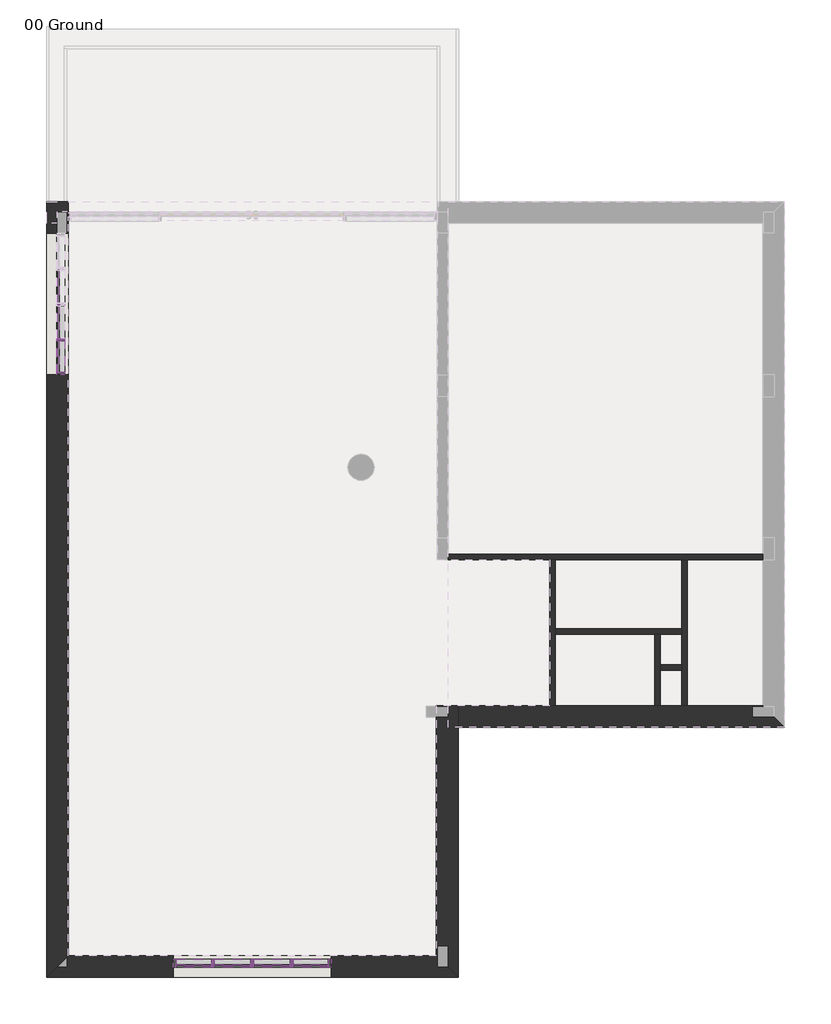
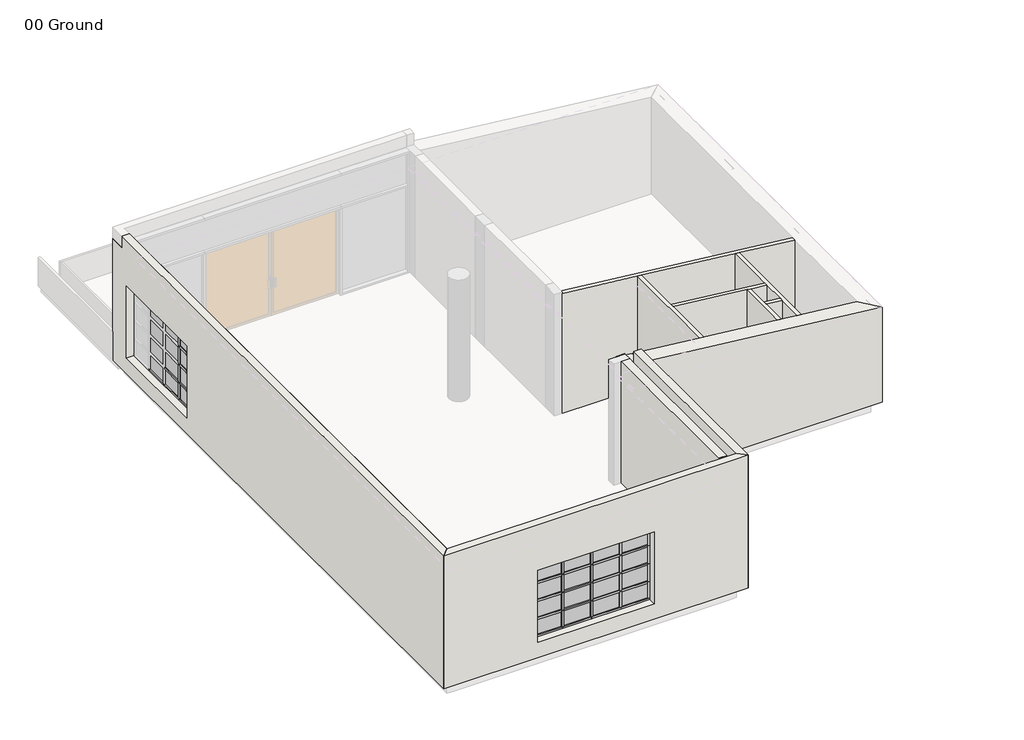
# One storey, part 1 of 2: 57 members, 28 plates, 10 walls.
"""IFC4 building model written with IfcOpenShell, lengths in millimetres."""

from ifc_helpers import new_model, si_unit, frame, origin, place, context, project, spatial, polyline, outline, extrude, faceted_brep, transform, mapped, element, save
from components import rectangular_mullion_50_x_150mm_5618a3b2, rectangular_mullion_50_x_150mm_9d7ed0e7, rectangular_mullion_50_x_150mm_3942d5f1, rectangular_mullion_50_x_150mm_75048c14, rectangular_mullion_50_x_150mm_fef40266, rectangular_mullion_50_x_150mm_4130c5bf, rectangular_mullion_50_x_150mm_a9044063, rectangular_mullion_50_x_150mm_1348d4e1, rectangular_mullion_50_x_150mm_89c22e8d, rectangular_mullion_50_x_150mm_42d59fea, rectangular_mullion_50_x_150mm_129a33a7, rectangular_mullion_50_x_150mm_05a43cda, system_panel_glazed_5c27190a, system_panel_glazed_fdc58650, system_panel_glazed_d9146cf5, system_panel_glazed_aea024ea, system_panel_glazed_24712de8, system_panel_glazed_68d5ac44, system_panel_glazed_f545c6ae, system_panel_glazed_1a6db426

model = new_model("IFC4")

# Units and contexts
model_context = context("Model", 3, world=origin())
ifc_project = project(units=[si_unit("LENGTHUNIT", "METRE", prefix="MILLI")], contexts=[model_context])

# Site, building, storey
site = spatial("IfcSite", under=ifc_project)
building = spatial("IfcBuilding", under=site)
storey = spatial("IfcBuildingStorey", under=building, Name="00 Ground", Elevation=0.0)

# Members
placement = place(None, origin())
rectangular_mullion_50_x_150mm_shape = rectangular_mullion_50_x_150mm_5618a3b2(model_context)
element("IfcMember", 1, ObjectType="Rectangular Mullion : 50 x 150mm", at=placement, inside=storey, context=model_context, shape_type="MappedRepresentation", body=[
    mapped(rectangular_mullion_50_x_150mm_shape, transform((-8247.5407999, 3987.2898354, 2300.0), x_axis=(0.0, 0.0, 1.0), y_axis=(1.0, 0.0, 0.0), z_axis=(0.0, 1.0, 0.0))),
])
rectangular_mullion_50_x_150mm_2_shape = rectangular_mullion_50_x_150mm_9d7ed0e7(model_context)
element("IfcMember", 2, ObjectType="Rectangular Mullion : 50 x 150mm", at=placement, inside=storey, context=model_context, shape_type="MappedRepresentation", body=[
    mapped(rectangular_mullion_50_x_150mm_2_shape, transform((-8247.5407999, 4637.2898352, 2300.0), x_axis=(0.0, 0.0, 1.0), y_axis=(1.0, 0.0, 0.0), z_axis=(0.0, 1.0, 0.0))),
])
element("IfcMember", 3, ObjectType="Rectangular Mullion : 50 x 150mm", at=placement, inside=storey, context=model_context, shape_type="MappedRepresentation", body=[
    mapped(rectangular_mullion_50_x_150mm_shape, transform((-8247.5407999, 3337.2898352, 400.0), x_axis=(0.0, 0.0, -1.0), y_axis=(1.0, 0.0, 0.0), z_axis=(0.0, -1.0, 0.0))),
])
element("IfcMember", 4, ObjectType="Rectangular Mullion : 50 x 150mm", at=placement, inside=storey, context=model_context, shape_type="MappedRepresentation", body=[
    mapped(rectangular_mullion_50_x_150mm_2_shape, transform((-8247.5407999, 3987.2898354, 400.0), x_axis=(0.0, 0.0, -1.0), y_axis=(1.0, 0.0, 0.0), z_axis=(0.0, -1.0, 0.0))),
])
element("IfcMember", 5, ObjectType="Rectangular Mullion : 50 x 150mm", at=placement, inside=storey, context=model_context, shape_type="MappedRepresentation", body=[
    mapped(rectangular_mullion_50_x_150mm_2_shape, transform((-8247.5407999, 4637.2898352, 400.0), x_axis=(0.0, 0.0, -1.0), y_axis=(1.0, 0.0, 0.0), z_axis=(0.0, -1.0, 0.0))),
])
rectangular_mullion_50_x_150mm_3_shape = rectangular_mullion_50_x_150mm_3942d5f1(model_context)
element("IfcMember", 6, ObjectType="Rectangular Mullion : 50 x 150mm", at=placement, inside=storey, context=model_context, shape_type="MappedRepresentation", body=[
    mapped(rectangular_mullion_50_x_150mm_3_shape, transform((-8247.5407999, 3962.2898354, 875.0), x_axis=(0.0, 0.0, 1.0), y_axis=(1.0, 0.0, 0.0), z_axis=(0.0, 1.0, 0.0))),
])
element("IfcMember", 7, ObjectType="Rectangular Mullion : 50 x 150mm", at=placement, inside=storey, context=model_context, shape_type="MappedRepresentation", body=[
    mapped(rectangular_mullion_50_x_150mm_3_shape, transform((-8247.5407999, 3962.2898354, 1350.0), x_axis=(0.0, 0.0, 1.0), y_axis=(1.0, 0.0, 0.0), z_axis=(0.0, 1.0, 0.0))),
])
element("IfcMember", 8, ObjectType="Rectangular Mullion : 50 x 150mm", at=placement, inside=storey, context=model_context, shape_type="MappedRepresentation", body=[
    mapped(rectangular_mullion_50_x_150mm_3_shape, transform((-8247.5407999, 3962.2898354, 1825.0), x_axis=(0.0, 0.0, 1.0), y_axis=(1.0, 0.0, 0.0), z_axis=(0.0, 1.0, 0.0))),
])
rectangular_mullion_50_x_150mm_4_shape = rectangular_mullion_50_x_150mm_75048c14(model_context)
element("IfcMember", 9, ObjectType="Rectangular Mullion : 50 x 150mm", at=placement, inside=storey, context=model_context, shape_type="MappedRepresentation", body=[
    mapped(rectangular_mullion_50_x_150mm_4_shape, transform((-8247.5407999, 4612.2898352, 875.0), x_axis=(0.0, 0.0, 1.0), y_axis=(1.0, 0.0, 0.0), z_axis=(0.0, 1.0, 0.0))),
])
rectangular_mullion_50_x_150mm_5_shape = rectangular_mullion_50_x_150mm_fef40266(model_context)
element("IfcMember", 10, ObjectType="Rectangular Mullion : 50 x 150mm", at=placement, inside=storey, context=model_context, shape_type="MappedRepresentation", body=[
    mapped(rectangular_mullion_50_x_150mm_5_shape, transform((-3272.5407999, -7487.7101648, 2300.0), x_axis=(0.0, 0.0, 1.0), y_axis=(0.0, -1.0, 0.0), z_axis=(1.0, 0.0, 0.0))),
])
element("IfcMember", 11, ObjectType="Rectangular Mullion : 50 x 150mm", at=placement, inside=storey, context=model_context, shape_type="MappedRepresentation", body=[
    mapped(rectangular_mullion_50_x_150mm_5_shape, transform((-5447.5407998, -7487.7101648, 2300.0), x_axis=(0.0, 0.0, 1.0), y_axis=(0.0, -1.0, 0.0), z_axis=(1.0, 0.0, 0.0))),
])
rectangular_mullion_50_x_150mm_6_shape = rectangular_mullion_50_x_150mm_4130c5bf(model_context)
element("IfcMember", 12, ObjectType="Rectangular Mullion : 50 x 150mm", at=placement, inside=storey, context=model_context, shape_type="MappedRepresentation", body=[
    mapped(rectangular_mullion_50_x_150mm_6_shape, transform((-4722.5407999, -7487.7101648, 2300.0), x_axis=(0.0, 0.0, 1.0), y_axis=(0.0, -1.0, 0.0), z_axis=(1.0, 0.0, 0.0))),
])
element("IfcMember", 13, ObjectType="Rectangular Mullion : 50 x 150mm", at=placement, inside=storey, context=model_context, shape_type="MappedRepresentation", body=[
    mapped(rectangular_mullion_50_x_150mm_6_shape, transform((-3997.5408001, -7487.7101648, 2300.0), x_axis=(0.0, 0.0, 1.0), y_axis=(0.0, -1.0, 0.0), z_axis=(1.0, 0.0, 0.0))),
])
element("IfcMember", 14, ObjectType="Rectangular Mullion : 50 x 150mm", at=placement, inside=storey, context=model_context, shape_type="MappedRepresentation", body=[
    mapped(rectangular_mullion_50_x_150mm_5_shape, transform((-6172.5407999, -7487.7101648, 400.0), x_axis=(0.0, 0.0, -1.0), y_axis=(0.0, -1.0, 0.0), z_axis=(-1.0, 0.0, 0.0))),
])
element("IfcMember", 15, ObjectType="Rectangular Mullion : 50 x 150mm", at=placement, inside=storey, context=model_context, shape_type="MappedRepresentation", body=[
    mapped(rectangular_mullion_50_x_150mm_6_shape, transform((-5447.5407998, -7487.7101648, 400.0), x_axis=(0.0, 0.0, -1.0), y_axis=(0.0, -1.0, 0.0), z_axis=(-1.0, 0.0, 0.0))),
])
element("IfcMember", 16, ObjectType="Rectangular Mullion : 50 x 150mm", at=placement, inside=storey, context=model_context, shape_type="MappedRepresentation", body=[
    mapped(rectangular_mullion_50_x_150mm_6_shape, transform((-4722.5407999, -7487.7101648, 400.0), x_axis=(0.0, 0.0, -1.0), y_axis=(0.0, -1.0, 0.0), z_axis=(-1.0, 0.0, 0.0))),
])
element("IfcMember", 17, ObjectType="Rectangular Mullion : 50 x 150mm", at=placement, inside=storey, context=model_context, shape_type="MappedRepresentation", body=[
    mapped(rectangular_mullion_50_x_150mm_5_shape, transform((-3997.5408001, -7487.7101648, 400.0), x_axis=(0.0, 0.0, -1.0), y_axis=(0.0, -1.0, 0.0), z_axis=(-1.0, 0.0, 0.0))),
])
rectangular_mullion_50_x_150mm_7_shape = rectangular_mullion_50_x_150mm_a9044063(model_context)
element("IfcMember", 18, ObjectType="Rectangular Mullion : 50 x 150mm", at=placement, inside=storey, context=model_context, shape_type="MappedRepresentation", body=[
    mapped(rectangular_mullion_50_x_150mm_7_shape, transform((-3322.5407999, -7487.7101648, 875.0), x_axis=(0.0, 0.0, 1.0), y_axis=(0.0, -1.0, 0.0), z_axis=(1.0, 0.0, 0.0))),
])
element("IfcMember", 19, ObjectType="Rectangular Mullion : 50 x 150mm", at=placement, inside=storey, context=model_context, shape_type="MappedRepresentation", body=[
    mapped(rectangular_mullion_50_x_150mm_7_shape, transform((-3322.5407999, -7487.7101648, 1350.0), x_axis=(0.0, 0.0, 1.0), y_axis=(0.0, -1.0, 0.0), z_axis=(1.0, 0.0, 0.0))),
])
element("IfcMember", 20, ObjectType="Rectangular Mullion : 50 x 150mm", at=placement, inside=storey, context=model_context, shape_type="MappedRepresentation", body=[
    mapped(rectangular_mullion_50_x_150mm_7_shape, transform((-3322.5407999, -7487.7101648, 1825.0), x_axis=(0.0, 0.0, 1.0), y_axis=(0.0, -1.0, 0.0), z_axis=(1.0, 0.0, 0.0))),
])
element("IfcMember", 21, ObjectType="Rectangular Mullion : 50 x 150mm", at=placement, inside=storey, context=model_context, shape_type="MappedRepresentation", body=[
    mapped(rectangular_mullion_50_x_150mm_7_shape, transform((-5472.5407998, -7487.7101648, 875.0), x_axis=(0.0, 0.0, 1.0), y_axis=(0.0, -1.0, 0.0), z_axis=(1.0, 0.0, 0.0))),
])
element("IfcMember", 22, ObjectType="Rectangular Mullion : 50 x 150mm", at=placement, inside=storey, context=model_context, shape_type="MappedRepresentation", body=[
    mapped(rectangular_mullion_50_x_150mm_7_shape, transform((-5472.5407998, -7487.7101648, 1350.0), x_axis=(0.0, 0.0, 1.0), y_axis=(0.0, -1.0, 0.0), z_axis=(1.0, 0.0, 0.0))),
])
element("IfcMember", 23, ObjectType="Rectangular Mullion : 50 x 150mm", at=placement, inside=storey, context=model_context, shape_type="MappedRepresentation", body=[
    mapped(rectangular_mullion_50_x_150mm_7_shape, transform((-5472.5407998, -7487.7101648, 1825.0), x_axis=(0.0, 0.0, 1.0), y_axis=(0.0, -1.0, 0.0), z_axis=(1.0, 0.0, 0.0))),
])
rectangular_mullion_50_x_150mm_8_shape = rectangular_mullion_50_x_150mm_1348d4e1(model_context)
element("IfcMember", 24, ObjectType="Rectangular Mullion : 50 x 150mm", at=placement, inside=storey, context=model_context, shape_type="MappedRepresentation", body=[
    mapped(rectangular_mullion_50_x_150mm_8_shape, transform((-4747.5407999, -7487.7101648, 875.0), x_axis=(0.0, 0.0, 1.0), y_axis=(0.0, -1.0, 0.0), z_axis=(1.0, 0.0, 0.0))),
])
element("IfcMember", 25, ObjectType="Rectangular Mullion : 50 x 150mm", at=placement, inside=storey, context=model_context, shape_type="MappedRepresentation", body=[
    mapped(rectangular_mullion_50_x_150mm_8_shape, transform((-4022.5408001, -7487.7101648, 875.0), x_axis=(0.0, 0.0, 1.0), y_axis=(0.0, -1.0, 0.0), z_axis=(1.0, 0.0, 0.0))),
])
element("IfcMember", 26, ObjectType="Rectangular Mullion : 50 x 150mm", at=placement, inside=storey, context=model_context, shape_type="MappedRepresentation", body=[
    mapped(rectangular_mullion_50_x_150mm_8_shape, transform((-4747.5407999, -7487.7101648, 1350.0), x_axis=(0.0, 0.0, 1.0), y_axis=(0.0, -1.0, 0.0), z_axis=(1.0, 0.0, 0.0))),
])
element("IfcMember", 27, ObjectType="Rectangular Mullion : 50 x 150mm", at=placement, inside=storey, context=model_context, shape_type="MappedRepresentation", body=[
    mapped(rectangular_mullion_50_x_150mm_8_shape, transform((-4022.5408001, -7487.7101648, 1350.0), x_axis=(0.0, 0.0, 1.0), y_axis=(0.0, -1.0, 0.0), z_axis=(1.0, 0.0, 0.0))),
])
element("IfcMember", 28, ObjectType="Rectangular Mullion : 50 x 150mm", at=placement, inside=storey, context=model_context, shape_type="MappedRepresentation", body=[
    mapped(rectangular_mullion_50_x_150mm_8_shape, transform((-4747.5407999, -7487.7101648, 1825.0), x_axis=(0.0, 0.0, 1.0), y_axis=(0.0, -1.0, 0.0), z_axis=(1.0, 0.0, 0.0))),
])
element("IfcMember", 29, ObjectType="Rectangular Mullion : 50 x 150mm", at=placement, inside=storey, context=model_context, shape_type="MappedRepresentation", body=[
    mapped(rectangular_mullion_50_x_150mm_8_shape, transform((-4022.5408001, -7487.7101648, 1825.0), x_axis=(0.0, 0.0, 1.0), y_axis=(0.0, -1.0, 0.0), z_axis=(1.0, 0.0, 0.0))),
])
rectangular_mullion_50_x_150mm_9_shape = rectangular_mullion_50_x_150mm_89c22e8d(model_context)
element("IfcMember", 30, ObjectType="Rectangular Mullion : 50 x 150mm", at=placement, inside=storey, context=model_context, shape_type="MappedRepresentation", body=[
    mapped(rectangular_mullion_50_x_150mm_9_shape, transform((-3272.5407999, -7487.7101648, 450.0), x_axis=(1.0, 0.0, 0.0), y_axis=(0.0, -1.0, 0.0), z_axis=(0.0, 0.0, -1.0))),
])
rectangular_mullion_50_x_150mm_10_shape = rectangular_mullion_50_x_150mm_42d59fea(model_context)
element("IfcMember", 31, ObjectType="Rectangular Mullion : 50 x 150mm", at=placement, inside=storey, context=model_context, shape_type="MappedRepresentation", body=[
    mapped(rectangular_mullion_50_x_150mm_10_shape, transform((-3272.5407999, -7487.7101648, 875.0), x_axis=(1.0, 0.0, 0.0), y_axis=(0.0, -1.0, 0.0), z_axis=(0.0, 0.0, -1.0))),
])
element("IfcMember", 32, ObjectType="Rectangular Mullion : 50 x 150mm", at=placement, inside=storey, context=model_context, shape_type="MappedRepresentation", body=[
    mapped(rectangular_mullion_50_x_150mm_10_shape, transform((-3272.5407999, -7487.7101648, 1350.0), x_axis=(1.0, 0.0, 0.0), y_axis=(0.0, -1.0, 0.0), z_axis=(0.0, 0.0, -1.0))),
])
element("IfcMember", 33, ObjectType="Rectangular Mullion : 50 x 150mm", at=placement, inside=storey, context=model_context, shape_type="MappedRepresentation", body=[
    mapped(rectangular_mullion_50_x_150mm_9_shape, transform((-3272.5407999, -7487.7101648, 1825.0), x_axis=(1.0, 0.0, 0.0), y_axis=(0.0, -1.0, 0.0), z_axis=(0.0, 0.0, -1.0))),
])
element("IfcMember", 34, ObjectType="Rectangular Mullion : 50 x 150mm", at=placement, inside=storey, context=model_context, shape_type="MappedRepresentation", body=[
    mapped(rectangular_mullion_50_x_150mm_9_shape, transform((-6172.5407999, -7487.7101648, 2250.0), x_axis=(-1.0, 0.0, 0.0), y_axis=(0.0, -1.0, 0.0), z_axis=(0.0, 0.0, 1.0))),
])
element("IfcMember", 35, ObjectType="Rectangular Mullion : 50 x 150mm", at=placement, inside=storey, context=model_context, shape_type="MappedRepresentation", body=[
    mapped(rectangular_mullion_50_x_150mm_9_shape, transform((-6172.5407999, -7487.7101648, 875.0), x_axis=(-1.0, 0.0, 0.0), y_axis=(0.0, -1.0, 0.0), z_axis=(0.0, 0.0, 1.0))),
])
element("IfcMember", 36, ObjectType="Rectangular Mullion : 50 x 150mm", at=placement, inside=storey, context=model_context, shape_type="MappedRepresentation", body=[
    mapped(rectangular_mullion_50_x_150mm_10_shape, transform((-6172.5407999, -7487.7101648, 1350.0), x_axis=(-1.0, 0.0, 0.0), y_axis=(0.0, -1.0, 0.0), z_axis=(0.0, 0.0, 1.0))),
])
element("IfcMember", 37, ObjectType="Rectangular Mullion : 50 x 150mm", at=placement, inside=storey, context=model_context, shape_type="MappedRepresentation", body=[
    mapped(rectangular_mullion_50_x_150mm_10_shape, transform((-6172.5407999, -7487.7101648, 1825.0), x_axis=(-1.0, 0.0, 0.0), y_axis=(0.0, -1.0, 0.0), z_axis=(0.0, 0.0, 1.0))),
])
rectangular_mullion_50_x_150mm_11_shape = rectangular_mullion_50_x_150mm_129a33a7(model_context)
element("IfcMember", 38, ObjectType="Rectangular Mullion : 50 x 150mm", at=placement, inside=storey, context=model_context, shape_type="MappedRepresentation", body=[
    mapped(rectangular_mullion_50_x_150mm_11_shape, transform((-5447.5407998, -7487.7101648, 450.0), x_axis=(1.0, 0.0, 0.0), y_axis=(0.0, -1.0, 0.0), z_axis=(0.0, 0.0, -1.0))),
])
element("IfcMember", 39, ObjectType="Rectangular Mullion : 50 x 150mm", at=placement, inside=storey, context=model_context, shape_type="MappedRepresentation", body=[
    mapped(rectangular_mullion_50_x_150mm_11_shape, transform((-4722.5407999, -7487.7101648, 450.0), x_axis=(1.0, 0.0, 0.0), y_axis=(0.0, -1.0, 0.0), z_axis=(0.0, 0.0, -1.0))),
])
element("IfcMember", 40, ObjectType="Rectangular Mullion : 50 x 150mm", at=placement, inside=storey, context=model_context, shape_type="MappedRepresentation", body=[
    mapped(rectangular_mullion_50_x_150mm_11_shape, transform((-3997.5408001, -7487.7101648, 450.0), x_axis=(1.0, 0.0, 0.0), y_axis=(0.0, -1.0, 0.0), z_axis=(0.0, 0.0, -1.0))),
])
rectangular_mullion_50_x_150mm_12_shape = rectangular_mullion_50_x_150mm_05a43cda(model_context)
element("IfcMember", 41, ObjectType="Rectangular Mullion : 50 x 150mm", at=placement, inside=storey, context=model_context, shape_type="MappedRepresentation", body=[
    mapped(rectangular_mullion_50_x_150mm_12_shape, transform((-5447.5407998, -7487.7101648, 875.0), x_axis=(1.0, 0.0, 0.0), y_axis=(0.0, -1.0, 0.0), z_axis=(0.0, 0.0, -1.0))),
])
element("IfcMember", 42, ObjectType="Rectangular Mullion : 50 x 150mm", at=placement, inside=storey, context=model_context, shape_type="MappedRepresentation", body=[
    mapped(rectangular_mullion_50_x_150mm_12_shape, transform((-4722.5407999, -7487.7101648, 875.0), x_axis=(1.0, 0.0, 0.0), y_axis=(0.0, -1.0, 0.0), z_axis=(0.0, 0.0, -1.0))),
])
element("IfcMember", 43, ObjectType="Rectangular Mullion : 50 x 150mm", at=placement, inside=storey, context=model_context, shape_type="MappedRepresentation", body=[
    mapped(rectangular_mullion_50_x_150mm_12_shape, transform((-3997.5408001, -7487.7101648, 875.0), x_axis=(1.0, 0.0, 0.0), y_axis=(0.0, -1.0, 0.0), z_axis=(0.0, 0.0, -1.0))),
])
element("IfcMember", 44, ObjectType="Rectangular Mullion : 50 x 150mm", at=placement, inside=storey, context=model_context, shape_type="MappedRepresentation", body=[
    mapped(rectangular_mullion_50_x_150mm_12_shape, transform((-5447.5407998, -7487.7101648, 1350.0), x_axis=(1.0, 0.0, 0.0), y_axis=(0.0, -1.0, 0.0), z_axis=(0.0, 0.0, -1.0))),
])
element("IfcMember", 45, ObjectType="Rectangular Mullion : 50 x 150mm", at=placement, inside=storey, context=model_context, shape_type="MappedRepresentation", body=[
    mapped(rectangular_mullion_50_x_150mm_12_shape, transform((-4722.5407999, -7487.7101648, 1350.0), x_axis=(1.0, 0.0, 0.0), y_axis=(0.0, -1.0, 0.0), z_axis=(0.0, 0.0, -1.0))),
])
element("IfcMember", 46, ObjectType="Rectangular Mullion : 50 x 150mm", at=placement, inside=storey, context=model_context, shape_type="MappedRepresentation", body=[
    mapped(rectangular_mullion_50_x_150mm_12_shape, transform((-3997.5408001, -7487.7101648, 1350.0), x_axis=(1.0, 0.0, 0.0), y_axis=(0.0, -1.0, 0.0), z_axis=(0.0, 0.0, -1.0))),
])
element("IfcMember", 47, ObjectType="Rectangular Mullion : 50 x 150mm", at=placement, inside=storey, context=model_context, shape_type="MappedRepresentation", body=[
    mapped(rectangular_mullion_50_x_150mm_11_shape, transform((-5447.5407998, -7487.7101648, 1825.0), x_axis=(1.0, 0.0, 0.0), y_axis=(0.0, -1.0, 0.0), z_axis=(0.0, 0.0, -1.0))),
])
element("IfcMember", 48, ObjectType="Rectangular Mullion : 50 x 150mm", at=placement, inside=storey, context=model_context, shape_type="MappedRepresentation", body=[
    mapped(rectangular_mullion_50_x_150mm_11_shape, transform((-4722.5407999, -7487.7101648, 1825.0), x_axis=(1.0, 0.0, 0.0), y_axis=(0.0, -1.0, 0.0), z_axis=(0.0, 0.0, -1.0))),
])
element("IfcMember", 49, ObjectType="Rectangular Mullion : 50 x 150mm", at=placement, inside=storey, context=model_context, shape_type="MappedRepresentation", body=[
    mapped(rectangular_mullion_50_x_150mm_11_shape, transform((-3997.5408001, -7487.7101648, 1825.0), x_axis=(1.0, 0.0, 0.0), y_axis=(0.0, -1.0, 0.0), z_axis=(0.0, 0.0, -1.0))),
])
element("IfcMember", 50, ObjectType="Rectangular Mullion : 50 x 150mm", at=placement, inside=storey, context=model_context, shape_type="MappedRepresentation", body=[
    mapped(rectangular_mullion_50_x_150mm_9_shape, transform((-8247.5407999, 3337.2898352, 2250.0), x_axis=(0.0, -1.0, 0.0), y_axis=(1.0, 0.0, 0.0), z_axis=(0.0, 0.0, 1.0))),
])
element("IfcMember", 51, ObjectType="Rectangular Mullion : 50 x 150mm", at=placement, inside=storey, context=model_context, shape_type="MappedRepresentation", body=[
    mapped(rectangular_mullion_50_x_150mm_9_shape, transform((-8247.5407999, 3337.2898352, 875.0), x_axis=(0.0, -1.0, 0.0), y_axis=(1.0, 0.0, 0.0), z_axis=(0.0, 0.0, 1.0))),
])
element("IfcMember", 52, ObjectType="Rectangular Mullion : 50 x 150mm", at=placement, inside=storey, context=model_context, shape_type="MappedRepresentation", body=[
    mapped(rectangular_mullion_50_x_150mm_10_shape, transform((-8247.5407999, 3337.2898352, 1350.0), x_axis=(0.0, -1.0, 0.0), y_axis=(1.0, 0.0, 0.0), z_axis=(0.0, 0.0, 1.0))),
])
element("IfcMember", 53, ObjectType="Rectangular Mullion : 50 x 150mm", at=placement, inside=storey, context=model_context, shape_type="MappedRepresentation", body=[
    mapped(rectangular_mullion_50_x_150mm_10_shape, transform((-8247.5407999, 3337.2898352, 1825.0), x_axis=(0.0, -1.0, 0.0), y_axis=(1.0, 0.0, 0.0), z_axis=(0.0, 0.0, 1.0))),
])
element("IfcMember", 54, ObjectType="Rectangular Mullion : 50 x 150mm", at=placement, inside=storey, context=model_context, shape_type="MappedRepresentation", body=[
    mapped(rectangular_mullion_50_x_150mm_11_shape, transform((-8247.5407999, 3987.2898354, 450.0), x_axis=(0.0, 1.0, 0.0), y_axis=(1.0, 0.0, 0.0), z_axis=(0.0, 0.0, -1.0))),
])
element("IfcMember", 55, ObjectType="Rectangular Mullion : 50 x 150mm", at=placement, inside=storey, context=model_context, shape_type="MappedRepresentation", body=[
    mapped(rectangular_mullion_50_x_150mm_12_shape, transform((-8247.5407999, 3987.2898354, 875.0), x_axis=(0.0, 1.0, 0.0), y_axis=(1.0, 0.0, 0.0), z_axis=(0.0, 0.0, -1.0))),
])
element("IfcMember", 56, ObjectType="Rectangular Mullion : 50 x 150mm", at=placement, inside=storey, context=model_context, shape_type="MappedRepresentation", body=[
    mapped(rectangular_mullion_50_x_150mm_12_shape, transform((-8247.5407999, 3987.2898354, 1350.0), x_axis=(0.0, 1.0, 0.0), y_axis=(1.0, 0.0, 0.0), z_axis=(0.0, 0.0, -1.0))),
])
element("IfcMember", 57, ObjectType="Rectangular Mullion : 50 x 150mm", at=placement, inside=storey, context=model_context, shape_type="MappedRepresentation", body=[
    mapped(rectangular_mullion_50_x_150mm_11_shape, transform((-8247.5407999, 3987.2898354, 1825.0), x_axis=(0.0, 1.0, 0.0), y_axis=(1.0, 0.0, 0.0), z_axis=(0.0, 0.0, -1.0))),
])

# Plates
system_panel_glazed_shape = system_panel_glazed_5c27190a(model_context)
element("IfcPlate", 58, ObjectType="System Panel : Glazed", at=placement, inside=storey, context=model_context, shape_type="MappedRepresentation", body=[
    mapped(system_panel_glazed_shape, transform((-8247.5407999, 3674.7898353, 900.0), x_axis=(0.0, 1.0, 0.0), y_axis=(-1.0, 0.0, 0.0), z_axis=(0.0, 0.0, 1.0))),
])
element("IfcPlate", 59, ObjectType="System Panel : Glazed", at=placement, inside=storey, context=model_context, shape_type="MappedRepresentation", body=[
    mapped(system_panel_glazed_shape, transform((-8247.5407999, 3674.7898353, 1375.0), x_axis=(0.0, 1.0, 0.0), y_axis=(-1.0, 0.0, 0.0), z_axis=(0.0, 0.0, 1.0))),
])
system_panel_glazed_2_shape = system_panel_glazed_fdc58650(model_context)
element("IfcPlate", 60, ObjectType="System Panel : Glazed", at=placement, inside=storey, context=model_context, shape_type="MappedRepresentation", body=[
    mapped(system_panel_glazed_2_shape, transform((-8247.5407999, 4312.2898353, 900.0), x_axis=(0.0, 1.0, 0.0), y_axis=(-1.0, 0.0, 0.0), z_axis=(0.0, 0.0, 1.0))),
])
element("IfcPlate", 61, ObjectType="System Panel : Glazed", at=placement, inside=storey, context=model_context, shape_type="MappedRepresentation", body=[
    mapped(system_panel_glazed_2_shape, transform((-8247.5407999, 4962.2898352, 900.0), x_axis=(0.0, 1.0, 0.0), y_axis=(-1.0, 0.0, 0.0), z_axis=(0.0, 0.0, 1.0))),
])
element("IfcPlate", 62, ObjectType="System Panel : Glazed", at=placement, inside=storey, context=model_context, shape_type="MappedRepresentation", body=[
    mapped(system_panel_glazed_2_shape, transform((-8247.5407999, 4312.2898353, 1375.0), x_axis=(0.0, 1.0, 0.0), y_axis=(-1.0, 0.0, 0.0), z_axis=(0.0, 0.0, 1.0))),
])
element("IfcPlate", 63, ObjectType="System Panel : Glazed", at=placement, inside=storey, context=model_context, shape_type="MappedRepresentation", body=[
    mapped(system_panel_glazed_2_shape, transform((-8247.5407999, 4962.2898352, 1375.0), x_axis=(0.0, 1.0, 0.0), y_axis=(-1.0, 0.0, 0.0), z_axis=(0.0, 0.0, 1.0))),
])
system_panel_glazed_3_shape = system_panel_glazed_d9146cf5(model_context)
element("IfcPlate", 64, ObjectType="System Panel : Glazed", at=placement, inside=storey, context=model_context, shape_type="MappedRepresentation", body=[
    mapped(system_panel_glazed_3_shape, transform((-5797.5407999, -7487.7101648, 900.0), x_axis=(1.0, 0.0, 0.0), y_axis=(0.0, 1.0, 0.0), z_axis=(0.0, 0.0, 1.0))),
])
element("IfcPlate", 65, ObjectType="System Panel : Glazed", at=placement, inside=storey, context=model_context, shape_type="MappedRepresentation", body=[
    mapped(system_panel_glazed_3_shape, transform((-3647.5408, -7487.7101648, 900.0), x_axis=(1.0, 0.0, 0.0), y_axis=(0.0, 1.0, 0.0), z_axis=(0.0, 0.0, 1.0))),
])
element("IfcPlate", 66, ObjectType="System Panel : Glazed", at=placement, inside=storey, context=model_context, shape_type="MappedRepresentation", body=[
    mapped(system_panel_glazed_3_shape, transform((-5797.5407999, -7487.7101648, 1375.0), x_axis=(1.0, 0.0, 0.0), y_axis=(0.0, 1.0, 0.0), z_axis=(0.0, 0.0, 1.0))),
])
element("IfcPlate", 67, ObjectType="System Panel : Glazed", at=placement, inside=storey, context=model_context, shape_type="MappedRepresentation", body=[
    mapped(system_panel_glazed_3_shape, transform((-3647.5408, -7487.7101648, 1375.0), x_axis=(1.0, 0.0, 0.0), y_axis=(0.0, 1.0, 0.0), z_axis=(0.0, 0.0, 1.0))),
])
system_panel_glazed_4_shape = system_panel_glazed_aea024ea(model_context)
element("IfcPlate", 68, ObjectType="System Panel : Glazed", at=placement, inside=storey, context=model_context, shape_type="MappedRepresentation", body=[
    mapped(system_panel_glazed_4_shape, transform((-5085.0407999, -7487.7101648, 900.0), x_axis=(1.0, 0.0, 0.0), y_axis=(0.0, 1.0, 0.0), z_axis=(0.0, 0.0, 1.0))),
])
element("IfcPlate", 69, ObjectType="System Panel : Glazed", at=placement, inside=storey, context=model_context, shape_type="MappedRepresentation", body=[
    mapped(system_panel_glazed_4_shape, transform((-4360.0408, -7487.7101648, 900.0), x_axis=(1.0, 0.0, 0.0), y_axis=(0.0, 1.0, 0.0), z_axis=(0.0, 0.0, 1.0))),
])
element("IfcPlate", 70, ObjectType="System Panel : Glazed", at=placement, inside=storey, context=model_context, shape_type="MappedRepresentation", body=[
    mapped(system_panel_glazed_4_shape, transform((-5085.0407999, -7487.7101648, 1375.0), x_axis=(1.0, 0.0, 0.0), y_axis=(0.0, 1.0, 0.0), z_axis=(0.0, 0.0, 1.0))),
])
element("IfcPlate", 71, ObjectType="System Panel : Glazed", at=placement, inside=storey, context=model_context, shape_type="MappedRepresentation", body=[
    mapped(system_panel_glazed_4_shape, transform((-4360.0408, -7487.7101648, 1375.0), x_axis=(1.0, 0.0, 0.0), y_axis=(0.0, 1.0, 0.0), z_axis=(0.0, 0.0, 1.0))),
])
system_panel_glazed_5_shape = system_panel_glazed_24712de8(model_context)
element("IfcPlate", 72, ObjectType="System Panel : Glazed", at=placement, inside=storey, context=model_context, shape_type="MappedRepresentation", body=[
    mapped(system_panel_glazed_5_shape, transform((-5797.5407999, -7487.7101648, 450.0), x_axis=(1.0, 0.0, 0.0), y_axis=(0.0, 1.0, 0.0), z_axis=(0.0, 0.0, 1.0))),
])
element("IfcPlate", 73, ObjectType="System Panel : Glazed", at=placement, inside=storey, context=model_context, shape_type="MappedRepresentation", body=[
    mapped(system_panel_glazed_5_shape, transform((-3647.5408, -7487.7101648, 450.0), x_axis=(1.0, 0.0, 0.0), y_axis=(0.0, 1.0, 0.0), z_axis=(0.0, 0.0, 1.0))),
])
element("IfcPlate", 74, ObjectType="System Panel : Glazed", at=placement, inside=storey, context=model_context, shape_type="MappedRepresentation", body=[
    mapped(system_panel_glazed_5_shape, transform((-5797.5407999, -7487.7101648, 1850.0), x_axis=(1.0, 0.0, 0.0), y_axis=(0.0, 1.0, 0.0), z_axis=(0.0, 0.0, 1.0))),
])
element("IfcPlate", 75, ObjectType="System Panel : Glazed", at=placement, inside=storey, context=model_context, shape_type="MappedRepresentation", body=[
    mapped(system_panel_glazed_5_shape, transform((-3647.5408, -7487.7101648, 1850.0), x_axis=(1.0, 0.0, 0.0), y_axis=(0.0, 1.0, 0.0), z_axis=(0.0, 0.0, 1.0))),
])
system_panel_glazed_6_shape = system_panel_glazed_68d5ac44(model_context)
element("IfcPlate", 76, ObjectType="System Panel : Glazed", at=placement, inside=storey, context=model_context, shape_type="MappedRepresentation", body=[
    mapped(system_panel_glazed_6_shape, transform((-5085.0407999, -7487.7101648, 450.0), x_axis=(1.0, 0.0, 0.0), y_axis=(0.0, 1.0, 0.0), z_axis=(0.0, 0.0, 1.0))),
])
element("IfcPlate", 77, ObjectType="System Panel : Glazed", at=placement, inside=storey, context=model_context, shape_type="MappedRepresentation", body=[
    mapped(system_panel_glazed_6_shape, transform((-4360.0408, -7487.7101648, 450.0), x_axis=(1.0, 0.0, 0.0), y_axis=(0.0, 1.0, 0.0), z_axis=(0.0, 0.0, 1.0))),
])
element("IfcPlate", 78, ObjectType="System Panel : Glazed", at=placement, inside=storey, context=model_context, shape_type="MappedRepresentation", body=[
    mapped(system_panel_glazed_6_shape, transform((-5085.0407999, -7487.7101648, 1850.0), x_axis=(1.0, 0.0, 0.0), y_axis=(0.0, 1.0, 0.0), z_axis=(0.0, 0.0, 1.0))),
])
element("IfcPlate", 79, ObjectType="System Panel : Glazed", at=placement, inside=storey, context=model_context, shape_type="MappedRepresentation", body=[
    mapped(system_panel_glazed_6_shape, transform((-4360.0408, -7487.7101648, 1850.0), x_axis=(1.0, 0.0, 0.0), y_axis=(0.0, 1.0, 0.0), z_axis=(0.0, 0.0, 1.0))),
])
system_panel_glazed_7_shape = system_panel_glazed_f545c6ae(model_context)
element("IfcPlate", 80, ObjectType="System Panel : Glazed", at=placement, inside=storey, context=model_context, shape_type="MappedRepresentation", body=[
    mapped(system_panel_glazed_7_shape, transform((-8247.5407999, 3674.7898353, 450.0), x_axis=(0.0, 1.0, 0.0), y_axis=(-1.0, 0.0, 0.0), z_axis=(0.0, 0.0, 1.0))),
])
element("IfcPlate", 81, ObjectType="System Panel : Glazed", at=placement, inside=storey, context=model_context, shape_type="MappedRepresentation", body=[
    mapped(system_panel_glazed_7_shape, transform((-8247.5407999, 3674.7898353, 1850.0), x_axis=(0.0, 1.0, 0.0), y_axis=(-1.0, 0.0, 0.0), z_axis=(0.0, 0.0, 1.0))),
])
system_panel_glazed_8_shape = system_panel_glazed_1a6db426(model_context)
element("IfcPlate", 82, ObjectType="System Panel : Glazed", at=placement, inside=storey, context=model_context, shape_type="MappedRepresentation", body=[
    mapped(system_panel_glazed_8_shape, transform((-8247.5407999, 4312.2898353, 450.0), x_axis=(0.0, 1.0, 0.0), y_axis=(-1.0, 0.0, 0.0), z_axis=(0.0, 0.0, 1.0))),
])
element("IfcPlate", 83, ObjectType="System Panel : Glazed", at=placement, inside=storey, context=model_context, shape_type="MappedRepresentation", body=[
    mapped(system_panel_glazed_8_shape, transform((-8247.5407999, 4962.2898352, 450.0), x_axis=(0.0, 1.0, 0.0), y_axis=(-1.0, 0.0, 0.0), z_axis=(0.0, 0.0, 1.0))),
])
element("IfcPlate", 84, ObjectType="System Panel : Glazed", at=placement, inside=storey, context=model_context, shape_type="MappedRepresentation", body=[
    mapped(system_panel_glazed_8_shape, transform((-8247.5407999, 4312.2898353, 1850.0), x_axis=(0.0, 1.0, 0.0), y_axis=(-1.0, 0.0, 0.0), z_axis=(0.0, 0.0, 1.0))),
])
element("IfcPlate", 85, ObjectType="System Panel : Glazed", at=placement, inside=storey, context=model_context, shape_type="MappedRepresentation", body=[
    mapped(system_panel_glazed_8_shape, transform((-8247.5407999, 4962.2898352, 1850.0), x_axis=(0.0, 1.0, 0.0), y_axis=(-1.0, 0.0, 0.0), z_axis=(0.0, 0.0, 1.0))),
])

# Walls
element("IfcWall", 86, ObjectType="Exterior - Brick on CMU", at=placement, inside=storey, context=model_context, shape_type="Brep", body=[
    faceted_brep([(-937.5407999, -7747.7101648, 0.0), (-937.5407999, -3147.7101648, 0.0), (-937.5407999, -2749.7101648, 0.0), (-937.5407999, -2749.7101648, 3140.2586904), (-937.5407999, -3147.7101648, 3140.2586904), (-937.5407999, -3147.7101648, 3500.0), (-937.5407999, -7747.7101648, 3500.0), (-1335.5407999, -2962.7101648, 0.0), (-1335.5407999, -7349.7101648, 0.0), (-1335.5407999, -7349.7101648, 3200.0), (-1335.5407999, -2962.7101648, 3200.0), (-1335.5407999, -2749.7101648, 0.0), (-1335.5407999, -2762.7101648, 0.0), (-1335.5407999, -2762.7101648, 3200.0), (-1335.5407999, -2749.7101648, 3200.0), (-1122.5407999, -7562.7101648, 0.0), (-1122.5407999, -7162.7101648, 0.0), (-1322.5407999, -7162.7101648, 0.0), (-1322.5407999, -7362.7101648, 0.0), (-1122.5407999, -2962.7101648, 0.0), (-1122.5407999, -2762.7101648, 0.0), (-1122.5407999, -2749.7101648, 3200.0), (-1122.5407999, -2749.7101648, 3160.0), (-1122.5407999, -7562.7101648, 3500.0), (-1322.5407999, -7362.7101648, 3200.0), (-1122.5407999, -2962.7101648, 3160.0), (-1122.5407999, -2762.7101648, 3160.0), (-1122.5407999, -2962.7101648, 3200.0), (-1122.5407999, -3147.7101648, 3500.0), (-1122.5407999, -3147.7101648, 3200.0), (-1122.5407999, -7162.7101648, 3200.0), (-1322.5407999, -7162.7101648, 3200.0), (-1122.5407999, -2762.7101648, 3200.0), (-1122.5407999, -3147.7101648, 3160.0)], [[[0, 1, 2, 3, 4, 5, 6]], [[7, 8, 9, 10]], [[11, 12, 13, 14]], [[2, 1, 0, 15, 16, 17, 18, 8, 7, 19, 20, 12, 11]], [[3, 2, 11, 14, 21, 22]], [[0, 6, 23, 15]], [[8, 18, 24, 9]], [[20, 19, 25, 26]], [[19, 7, 10, 27, 25]], [[16, 15, 23, 28, 29, 30]], [[17, 16, 30, 31]], [[12, 20, 26, 32, 13]], [[18, 17, 31, 24]], [[14, 13, 32, 21]], [[30, 29, 27, 10, 9, 24, 31]], [[5, 4, 33, 29, 28]], [[33, 25, 27, 29]], [[26, 22, 21, 32]], [[6, 5, 28, 23]], [[4, 3, 22, 26, 25, 33]]]),
])
element("IfcWall", 87, ObjectType="Exterior - Brick on CMU", at=placement, inside=storey, context=model_context, shape_type="Brep", body=[
    faceted_brep([(-937.5407999, -3147.7101648, 0.0), (5062.4592001, -3147.7101648, 0.0), (5062.4592001, -3147.7101648, 2500.0), (-937.5407999, -3147.7101648, 3140.2586904), (4664.4592001, -2749.7101648, 0.0), (3277.4592001, -2749.7101648, 0.0), (3177.4592001, -2749.7101648, 0.0), (2777.4592001, -2749.7101648, 0.0), (2677.4592001, -2749.7101648, 0.0), (846.9592001, -2749.7101648, 0.0), (746.9592001, -2749.7101648, 0.0), (-937.5407999, -2749.7101648, 0.0), (-937.5407999, -2749.7101648, 3140.2586904), (746.9592001, -2749.7101648, 2960.5060631), (846.9592001, -2749.7101648, 2949.8350849), (2677.4592001, -2749.7101648, 2754.5028294), (2777.4592001, -2749.7101648, 2743.8318513), (3177.4592001, -2749.7101648, 2701.1479386), (3277.4592001, -2749.7101648, 2690.4769604), (4664.4592001, -2749.7101648, 2542.4704931), (4677.4592001, -2762.7101648, 0.0), (4477.4592001, -2762.7101648, 0.0), (4477.4592001, -2962.7101648, 0.0), (4877.4592001, -2962.7101648, 0.0), (4877.4592001, -2962.7101648, 2519.7413096), (4677.4592001, -2762.7101648, 2519.7413096), (4477.4592001, -2962.7101648, 2519.7413096), (4477.4592001, -2762.7101648, 2519.7413096)], [[[0, 1, 2, 3]], [[4, 5, 6, 7, 8, 9, 10, 11, 12, 13, 14, 15, 16, 17, 18, 19]], [[1, 0, 11, 10, 9, 8, 7, 6, 5, 4, 20, 21, 22, 23]], [[0, 3, 12, 11]], [[2, 1, 23, 24]], [[4, 19, 24, 25, 20]], [[26, 24, 23, 22]], [[21, 27, 26, 22]], [[27, 21, 20, 25]], [[3, 2, 24, 19, 18, 17, 16, 15, 14, 13, 12]], [[24, 26, 27, 25]]]),
])
element("IfcWall", 88, ObjectType="Exterior - Brick on CMU", at=placement, inside=storey, context=model_context, shape_type="Brep", body=[
    faceted_brep([(-1335.5407999, -7349.7101648, 0.0), (-8109.5407999, -7349.7101648, 0.0), (-8109.5407999, -7349.7101648, 3200.0), (-1335.5407999, -7349.7101648, 3200.0), (-6172.5407999, -7349.7101648, 2300.0), (-6172.5407999, -7349.7101648, 400.0), (-3272.5407999, -7349.7101648, 400.0), (-3272.5407999, -7349.7101648, 2300.0), (-8507.5407999, -7747.7101648, 0.0), (-937.5407999, -7747.7101648, 0.0), (-937.5407999, -7747.7101648, 3500.0), (-8507.5407999, -7747.7101648, 3500.0), (-6172.5407999, -7747.7101648, 400.0), (-6172.5407999, -7747.7101648, 2300.0), (-3272.5407999, -7747.7101648, 2300.0), (-3272.5407999, -7747.7101648, 400.0), (-1322.5407999, -7362.7101648, 0.0), (-1322.5407999, -7562.7101648, 0.0), (-1122.5407999, -7562.7101648, 0.0), (-8322.5407999, -7562.7101648, 0.0), (-8122.5407999, -7562.7101648, 0.0), (-8122.5407999, -7362.7101648, 0.0), (-1122.5407999, -7562.7101648, 3500.0), (-8322.5407999, -7562.7101648, 3500.0), (-1322.5407999, -7362.7101648, 3200.0), (-8122.5407999, -7362.7101648, 3200.0), (-8122.5407999, -7562.7101648, 3200.0), (-1322.5407999, -7562.7101648, 3200.0)], [[[0, 1, 2, 3], [4, 5, 6, 7]], [[8, 9, 10, 11], [12, 13, 14, 15]], [[1, 0, 16, 17, 18, 9, 8, 19, 20, 21]], [[11, 10, 22, 23]], [[10, 9, 18, 22]], [[16, 0, 3, 24]], [[8, 11, 23, 19]], [[1, 21, 25, 2]], [[4, 13, 12, 5]], [[13, 4, 7, 14]], [[14, 7, 6, 15]], [[5, 12, 15, 6]], [[21, 20, 26, 25]], [[20, 19, 23, 22, 18, 17, 27, 26]], [[17, 16, 24, 27]], [[26, 27, 24, 3, 2, 25]]]),
])
element("IfcWall", 89, ObjectType="Exterior - Brick on CMU", at=placement, inside=storey, context=model_context, shape_type="Brep", body=[
    faceted_brep([(-8109.5407999, -7349.7101648, 0.0), (-8109.5407999, 6522.2898352, 0.0), (-8109.5407999, 6522.2898352, 3200.0), (-8109.5407999, -7349.7101648, 3200.0), (-8109.5407999, 3337.2898352, 400.0), (-8109.5407999, 3337.2898352, 2300.0), (-8109.5407999, 5937.2898352, 2300.0), (-8109.5407999, 5937.2898352, 400.0), (-8507.5407999, 6522.2898352, 0.0), (-8507.5407999, -7747.7101648, 0.0), (-8507.5407999, -7747.7101648, 3500.0), (-8507.5407999, 6124.2898352, 3500.0), (-8507.5407999, 6124.2898352, 3200.0), (-8507.5407999, 6522.2898352, 3200.0), (-8507.5407999, 3337.2898352, 2300.0), (-8507.5407999, 3337.2898352, 400.0), (-8507.5407999, 5937.2898352, 400.0), (-8507.5407999, 5937.2898352, 2300.0), (-8122.5407999, -7362.7101648, 0.0), (-8322.5407999, -7562.7101648, 0.0), (-8322.5407999, 5937.2898352, 0.0), (-8122.5407999, 5937.2898352, 0.0), (-8122.5407999, 6337.2898352, 0.0), (-8322.5407999, 6337.2898352, 0.0), (-8322.5407999, -7562.7101648, 3500.0), (-8322.5407999, 6124.2898352, 3500.0), (-8122.5407999, -7362.7101648, 3200.0), (-8322.5407999, -7562.7101648, 3200.0), (-8322.5407999, 5937.2898352, 2300.0), (-8122.5407999, 5937.2898352, 2300.0), (-8122.5407999, 5937.2898352, 400.0), (-8322.5407999, 5937.2898352, 400.0), (-8322.5407999, 5937.2898352, 3200.0), (-8122.5407999, 5937.2898352, 3200.0), (-8322.5407999, 6337.2898352, 3200.0), (-8322.5407999, 6124.2898352, 3200.0), (-8122.5407999, 6337.2898352, 3200.0)], [[[0, 1, 2, 3], [4, 5, 6, 7]], [[8, 9, 10, 11, 12, 13], [14, 15, 16, 17]], [[1, 0, 18, 19, 9, 8], [20, 21, 22, 23]], [[1, 8, 13, 2]], [[24, 25, 11, 10]], [[10, 9, 19, 18, 0, 3, 26, 27, 24]], [[4, 15, 14, 5]], [[5, 14, 17, 28, 29, 6]], [[7, 6, 29, 30]], [[17, 16, 31, 28]], [[15, 4, 7, 30, 31, 16]], [[29, 28, 32, 33]], [[20, 31, 30, 21]], [[31, 20, 23, 34, 35, 25, 24, 27, 32, 28]], [[23, 22, 36, 34]], [[25, 35, 12, 11]], [[2, 13, 12, 35, 34, 36, 33, 32, 27, 26, 3]], [[21, 30, 29, 33, 36, 22]]]),
])
element("IfcWall", 90, ObjectType="Generic - 100mm", at=placement, inside=storey, context=model_context, shape_type="Brep", body=[
    faceted_brep([(3277.4592001, -2749.7101648, 0.0), (3277.4592001, -62.7101648, 0.0), (3277.4592001, -62.7101648, 2690.4769604), (3277.4592001, -2749.7101648, 2690.4769604), (3177.4592001, -2749.7101648, 0.0), (3177.4592001, -2749.7101648, 2701.1479386), (3177.4592001, -2097.7101648, 2701.1479386), (3177.4592001, -1997.7101648, 2701.1479386), (3177.4592001, -1432.7101648, 2701.1479386), (3177.4592001, -1332.7101648, 2701.1479386), (3177.4592001, -62.7101648, 2701.1479386), (3177.4592001, -62.7101648, 0.0), (3177.4592001, -1332.7101648, 0.0), (3177.4592001, -1432.7101648, 0.0), (3177.4592001, -1997.7101648, 0.0), (3177.4592001, -2097.7101648, 0.0)], [[[0, 1, 2, 3]], [[4, 5, 6, 7, 8, 9, 10, 11, 12, 13, 14, 15]], [[1, 0, 4, 15, 14, 13, 12, 11]], [[0, 3, 5, 4]], [[2, 1, 11, 10]], [[3, 2, 10, 9, 8, 7, 6, 5]]]),
])
element("IfcWall", 91, ObjectType="Generic - 100mm", at=placement, inside=storey, context=model_context, shape_type="Brep", body=[
    faceted_brep([(4664.4592001, 37.2898352, 0.0), (-1122.5407999, 37.2898352, 0.0), (-1122.5407999, 37.2898352, 3160.0), (4664.4592001, 37.2898352, 2542.4704931), (4664.4592001, -62.7101648, 0.0), (4664.4592001, -62.7101648, 2542.4704931), (3277.4592001, -62.7101648, 2690.4769604), (3177.4592001, -62.7101648, 2701.1479386), (846.9592001, -62.7101648, 2949.8350849), (746.9592001, -62.7101648, 2960.5060631), (-1122.5407999, -62.7101648, 3160.0), (-1122.5407999, -62.7101648, 0.0), (746.9592001, -62.7101648, 0.0), (846.9592001, -62.7101648, 0.0), (3177.4592001, -62.7101648, 0.0), (3277.4592001, -62.7101648, 0.0)], [[[0, 1, 2, 3]], [[4, 5, 6, 7, 8, 9, 10, 11, 12, 13, 14, 15]], [[1, 0, 4, 15, 14, 13, 12, 11]], [[2, 1, 11, 10]], [[0, 3, 5, 4]], [[3, 2, 10, 9, 8, 7, 6, 5]]]),
])
element("IfcWall", 92, ObjectType="Generic - 100mm", at=placement, inside=storey, context=model_context, shape_type="Brep", body=[
    faceted_brep([(846.9592001, -2749.7101648, 0.0), (846.9592001, -1432.7101648, 0.0), (846.9592001, -1332.7101648, 0.0), (846.9592001, -62.7101648, 0.0), (846.9592001, -62.7101648, 2949.8350849), (846.9592001, -1332.7101648, 2949.8350849), (846.9592001, -1432.7101648, 2949.8350849), (846.9592001, -2749.7101648, 2949.8350849), (746.9592001, -2749.7101648, 0.0), (746.9592001, -2749.7101648, 2960.5060631), (746.9592001, -62.7101648, 2960.5060631), (746.9592001, -62.7101648, 0.0)], [[[0, 1, 2, 3, 4, 5, 6, 7]], [[8, 9, 10, 11]], [[3, 2, 1, 0, 8, 11]], [[0, 7, 9, 8]], [[4, 3, 11, 10]], [[7, 6, 5, 4, 10, 9]]]),
])
element("IfcWall", 93, ObjectType="Generic - 100mm", at=placement, inside=storey, context=model_context, shape_type="Brep", body=[
    faceted_brep([(846.9592001, -1432.7101648, 0.0), (2677.4592001, -1432.7101648, 0.0), (2777.4592001, -1432.7101648, 0.0), (3177.4592001, -1432.7101648, 0.0), (3177.4592001, -1432.7101648, 2701.1479386), (2777.4592001, -1432.7101648, 2743.8318513), (2677.4592001, -1432.7101648, 2754.5028294), (846.9592001, -1432.7101648, 2949.8350849), (846.9592001, -1332.7101648, 0.0), (846.9592001, -1332.7101648, 2949.8350849), (3177.4592001, -1332.7101648, 2701.1479386), (3177.4592001, -1332.7101648, 0.0)], [[[0, 1, 2, 3, 4, 5, 6, 7]], [[8, 9, 10, 11]], [[3, 2, 1, 0, 8, 11]], [[4, 3, 11, 10]], [[0, 7, 9, 8]], [[7, 6, 5, 4, 10, 9]]]),
])
element("IfcWall", 94, ObjectType="Generic - 100mm", at=placement, inside=storey, context=model_context, shape_type="Brep", body=[
    faceted_brep([(2777.4592001, -2749.7101648, 0.0), (2777.4592001, -2097.7101648, 0.0), (2777.4592001, -1997.7101648, 0.0), (2777.4592001, -1432.7101648, 0.0), (2777.4592001, -1432.7101648, 2743.8318513), (2777.4592001, -1997.7101648, 2743.8318513), (2777.4592001, -2097.7101648, 2743.8318513), (2777.4592001, -2749.7101648, 2743.8318513), (2677.4592001, -2749.7101648, 0.0), (2677.4592001, -2749.7101648, 2754.5028294), (2677.4592001, -1432.7101648, 2754.5028294), (2677.4592001, -1432.7101648, 0.0)], [[[0, 1, 2, 3, 4, 5, 6, 7]], [[8, 9, 10, 11]], [[3, 2, 1, 0, 8, 11]], [[0, 7, 9, 8]], [[4, 3, 11, 10]], [[7, 6, 5, 4, 10, 9]]]),
])
element("IfcWall", 95, ObjectType="Generic - 100mm", at=placement, inside=storey, context=model_context, shape_type="SweptSolid", body=[
    extrude(outline(polyline([(0.0, 2777.4592001), (0.0, 3177.4592001), (2701.1479386, 3177.4592001), (2743.8318513, 2777.4592001), (0.0, 2777.4592001)])), frame((0.0, -2097.7101648, 0.0), z_axis=(0.0, 1.0, 0.0), x_axis=(0.0, 0.0, 1.0)), (0.0, 0.0, 1.0), 100.0),
])

save(model, "model.ifc")
